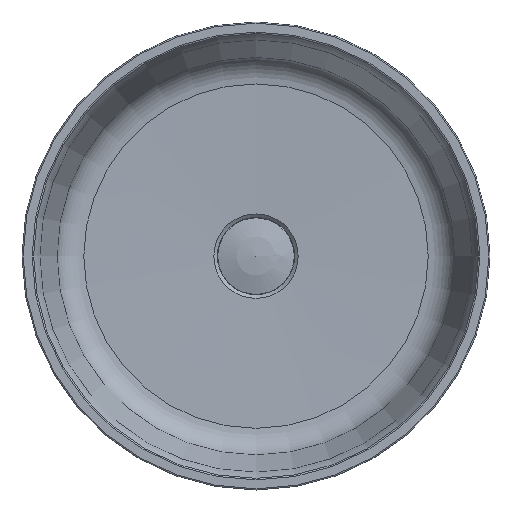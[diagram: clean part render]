
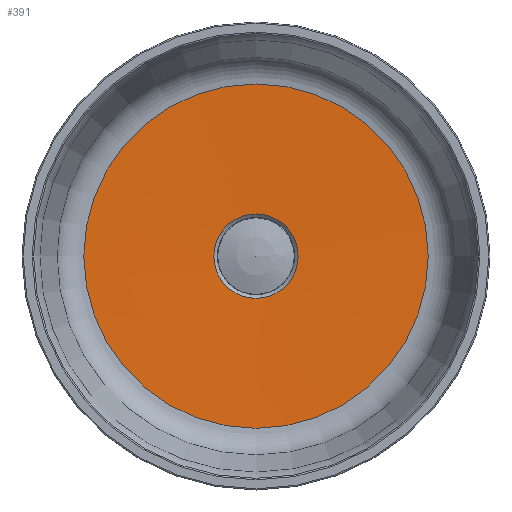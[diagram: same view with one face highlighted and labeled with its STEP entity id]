
A CAD part, top view. The second image highlights one B-rep face of the part: STEP entity #391.
In plain terms, the highlighted conical face has half-angle 88.5 degrees and reference radius 50.716 mm.
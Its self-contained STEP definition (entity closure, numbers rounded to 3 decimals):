
#307=CONICAL_SURFACE('',#1767,50.716,88.5);
#391=ADVANCED_FACE('',(#563,#564),#307,.F.);
#563=FACE_BOUND('',#747,.T.);
#564=FACE_BOUND('',#748,.T.);
#747=EDGE_LOOP('',(#967));
#748=EDGE_LOOP('',(#968));
#967=ORIENTED_EDGE('',*,*,#1470,.T.);
#968=ORIENTED_EDGE('',*,*,#1471,.T.);
#1321=VERTEX_POINT('',#2522);
#1322=VERTEX_POINT('',#2524);
#1470=EDGE_CURVE('',#1321,#1321,#1649,.T.);
#1471=EDGE_CURVE('',#1322,#1322,#1650,.T.);
#1649=CIRCLE('',#1765,36.042);
#1650=CIRCLE('',#1766,147.181);
#1765=AXIS2_PLACEMENT_3D('',#2521,#2014,#2015);
#1766=AXIS2_PLACEMENT_3D('',#2523,#2016,#2017);
#1767=AXIS2_PLACEMENT_3D('',#2525,#2018,#2019);
#2014=DIRECTION('',(0.,0.,-1.));
#2015=DIRECTION('',(0.,1.,0.));
#2016=DIRECTION('',(0.,0.,1.));
#2017=DIRECTION('',(0.,-1.,0.));
#2018=DIRECTION('',(0.,0.,1.));
#2019=DIRECTION('',(0.,-1.,0.));
#2521=CARTESIAN_POINT('',(0.,0.,18.132));
#2522=CARTESIAN_POINT('',(0.,36.042,18.132));
#2523=CARTESIAN_POINT('',(0.,0.,21.042));
#2524=CARTESIAN_POINT('',(0.,-147.181,21.042));
#2525=CARTESIAN_POINT('',(0.,0.,18.516));
